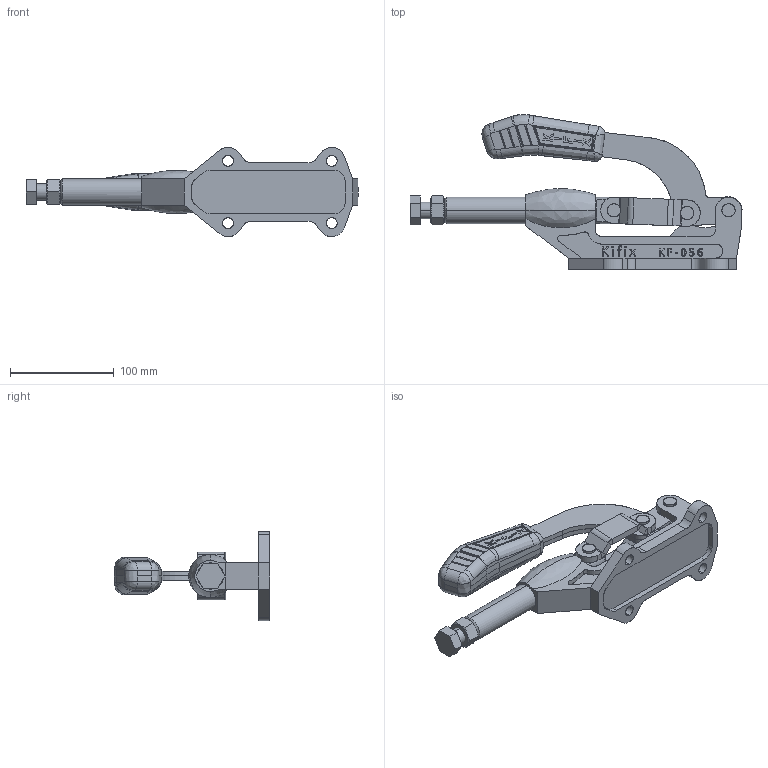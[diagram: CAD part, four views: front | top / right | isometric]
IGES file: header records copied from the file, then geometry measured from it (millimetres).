
Start section: SolidWorks IGES file using analytic representation for surfaces
Global section: file name: C:\Projetos\Grampos\KF-056\KF-056.IGS; native system: SolidWorks 2013; preprocessor: SolidWorks 2013; author: Ricardo; date: 140825.150903; units: millimetre
Bounding box: 319.9 x 149.48 x 86 mm (x, y, z)
Surface area: 153507.3 mm2 (no closed solid volume)
Topology: 0 solids, 0 shells, 1041 faces, 13030 edges, 13006 vertices
Faces by surface type: bspline 746, revolution 295
